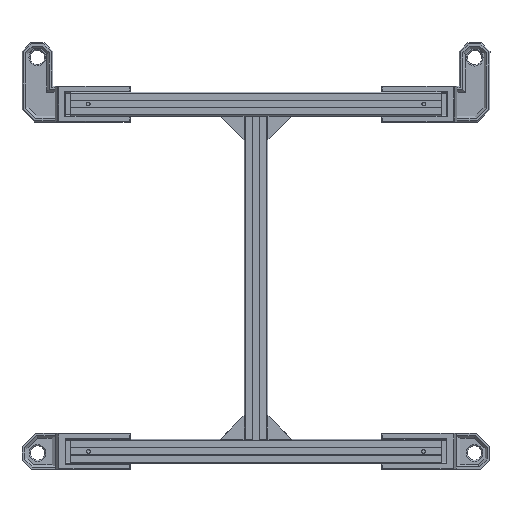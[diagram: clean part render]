
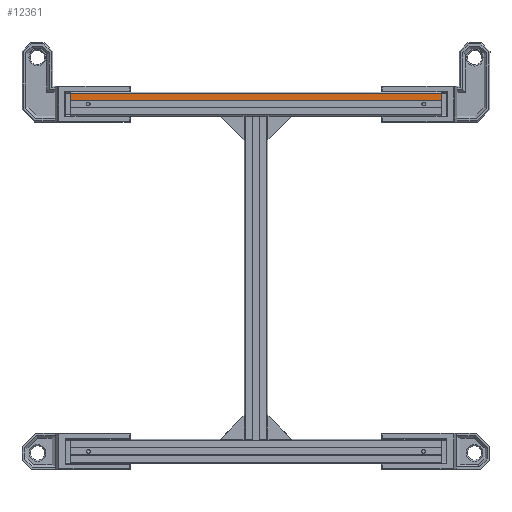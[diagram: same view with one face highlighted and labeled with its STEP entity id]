
A CAD part, top view. The second image highlights one B-rep face of the part: STEP entity #12361.
In plain terms, the highlighted planar face has unit normal (0, 0, 1) as drawn and (0, 1, 0) by its records, which use the part's own axes.
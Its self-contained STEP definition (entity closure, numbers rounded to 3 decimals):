
#296=PLANE('',#13223);
#811=FACE_OUTER_BOUND('',#1579,.T.);
#1579=EDGE_LOOP('',(#8767,#8768,#8769,#8770));
#2418=LINE('',#18565,#3782);
#2446=LINE('',#18626,#3810);
#2509=LINE('',#18756,#3873);
#2510=LINE('',#18758,#3874);
#3782=VECTOR('',#14473,10.);
#3810=VECTOR('',#14507,10.);
#3873=VECTOR('',#14642,1000.);
#3874=VECTOR('',#14645,1000.);
#5605=VERTEX_POINT('',#18562);
#5606=VERTEX_POINT('',#18564);
#5635=VERTEX_POINT('',#18623);
#5636=VERTEX_POINT('',#18625);
#6720=EDGE_CURVE('',#5605,#5606,#2418,.F.);
#6750=EDGE_CURVE('',#5636,#5635,#2446,.F.);
#6816=EDGE_CURVE('',#5605,#5636,#2509,.T.);
#6817=EDGE_CURVE('',#5606,#5635,#2510,.T.);
#8767=ORIENTED_EDGE('',*,*,#6750,.T.);
#8768=ORIENTED_EDGE('',*,*,#6817,.F.);
#8769=ORIENTED_EDGE('',*,*,#6720,.F.);
#8770=ORIENTED_EDGE('',*,*,#6816,.T.);
#12361=ADVANCED_FACE('',(#811),#296,.F.);
#13223=AXIS2_PLACEMENT_3D('',#18757,#14643,#14644);
#14473=DIRECTION('',(1.,0.,0.));
#14507=DIRECTION('',(1.,0.,0.));
#14642=DIRECTION('',(0.,0.,-1.));
#14643=DIRECTION('center_axis',(0.,-1.,0.));
#14644=DIRECTION('ref_axis',(0.,0.,-1.));
#14645=DIRECTION('',(0.,0.,-1.));
#18562=CARTESIAN_POINT('',(7.59,9.981,305.));
#18564=CARTESIAN_POINT('',(1.59,9.981,305.));
#18565=CARTESIAN_POINT('',(-4.41,9.981,305.));
#18623=CARTESIAN_POINT('',(1.59,9.981,-5.));
#18625=CARTESIAN_POINT('',(7.59,9.981,-5.));
#18626=CARTESIAN_POINT('',(-4.41,9.981,-5.));
#18756=CARTESIAN_POINT('',(7.59,9.981,300.));
#18757=CARTESIAN_POINT('Origin',(1.59,9.981,300.));
#18758=CARTESIAN_POINT('',(1.59,9.981,300.));
